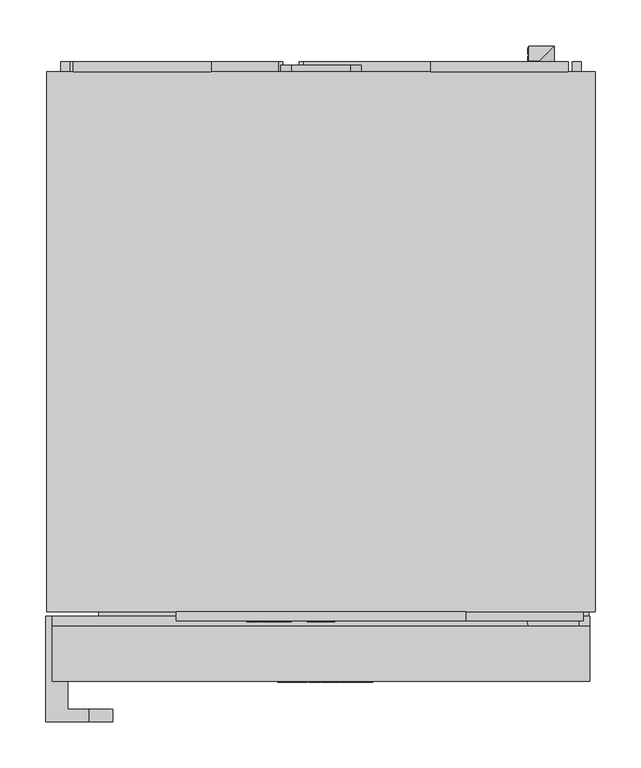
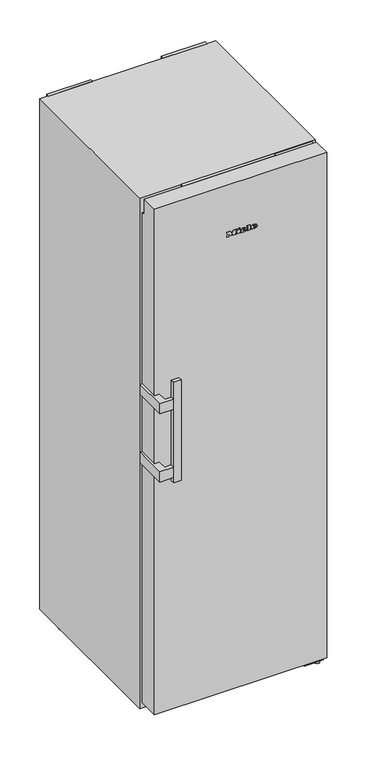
"""IFC4 building model written with IfcOpenShell, lengths in millimetres: proxy geometry, 11949500_CN_KS4783EDC_EDTCS : 36478350_CN_11949500_KS4783EDC_EDTCS."""

from ifc_helpers import new_model, si_unit, point, frame, frame_2d, origin, origin_with_axes, place, context, project, spatial, polyline, circle_curve, ellipse_curve, trimmed, segment, composite_curve, outline, extrude, faceted_brep, source, transform, mapped, element, save
from ifc_brep_helpers import plane_surface, cylinder_surface, revolved_surface, extruded_surface, advanced_brep


def specialty_equipment_c782e8de(model_context):
    return source(origin(), model_context, "Body", "SolidModel", [
        extrude(outline(polyline([(15.0, -609.5), (-15.0, -609.5), (-15.0, -608.5), (15.0, -608.5), (15.0, -609.5)])), frame((0.0, 0.0, 1810.5), z_axis=(0.0, 0.0, 1.0), x_axis=(1.0, 0.0, 0.0)), (0.0, 0.0, 1.0), 31.0),
        extrude(outline(polyline([(105.0, -608.5), (-105.0, -608.5), (-105.0, -606.5), (105.0, -606.5), (105.0, -608.5)])), frame((0.0, 0.0, 1806.5), z_axis=(0.0, 0.0, 1.0), x_axis=(1.0, 0.0, 0.0)), (0.0, 0.0, 1.0), 39.0),
        faceted_brep([(157.5, -598.5, 1802.0), (157.5, -608.5, 1802.0), (-157.5, -608.5, 1802.0), (-157.5, -598.5, 1802.0), (157.5, -598.5, 1850.0), (-157.5, -598.5, 1850.0), (-157.5, -608.5, 1850.0), (157.5, -608.5, 1850.0), (-105.0, -608.5, 1845.5), (105.0, -608.5, 1845.5), (105.0, -608.5, 1806.5), (-105.0, -608.5, 1806.5), (105.0, -606.5, 1845.5), (-105.0, -606.5, 1845.5), (-105.0, -606.5, 1806.5), (105.0, -606.5, 1806.5)], [[[0, 1, 2, 3]], [[4, 5, 6, 7]], [[0, 3, 5, 4]], [[3, 2, 6, 5]], [[2, 1, 7, 6], [8, 9, 10, 11]], [[1, 0, 4, 7]], [[12, 13, 14, 15]], [[13, 12, 9, 8]], [[14, 13, 8, 11]], [[15, 14, 11, 10]], [[12, 15, 10, 9]]]),
        advanced_brep(
        [(44.846, -675.5, 1672.029), (44.846, -675.5, 1673.746), (56.219, -675.5, 1673.746), (36.431, -675.5, 1673.746), (41.106, -675.5, 1668.0), (55.93, -675.5, 1672.029), (50.796, -675.5, 1672.029), (46.75, -675.5, 1670.125), (44.846, -675.5, 1675.922), (44.846, -675.5, 1677.775), (47.753, -675.5, 1677.775), (47.753, -675.5, 1675.922), (44.846, -674.5, 1672.029), (46.75, -674.5, 1670.125), (50.796, -674.5, 1672.029), (55.93, -674.5, 1672.029), (41.106, -674.5, 1668.0), (36.431, -674.5, 1673.746), (56.219, -674.5, 1673.746), (44.846, -674.5, 1673.746), (44.846, -674.5, 1675.922), (47.753, -674.5, 1675.922), (47.753, -674.5, 1677.775), (44.846, -674.5, 1677.775)],
        [
            (0, 1),
            (1, 2),
            (2, 3, ellipse_curve(frame((46.325, -675.5, 1673.746), z_axis=(0.0, -1.0, 0.0), x_axis=(-1.0, 0.0, 0.0)), 9.894, 8.177)),
            (3, 4, circle_curve(frame((43.0100927, -675.5, 1674.324), z_axis=(0.0, -1.0, 0.0), x_axis=(0.0, 0.0, -1.0)), 6.6044337)),
            (4, 5, circle_curve(frame((46.1269364, -675.5, 1678.812), z_axis=(0.0, -1.0, 0.0), x_axis=(0.0, 0.0, -1.0)), 11.9209541)),
            (5, 6),
            (6, 7, circle_curve(frame((47.581, -675.5, 1673.61), z_axis=(0.0, 1.0, 0.0), x_axis=(0.0, 0.0, -1.0)), 3.5827065)),
            (7, 0, circle_curve(frame((46.75, -675.5, 1672.029), z_axis=(0.0, 1.0, 0.0), x_axis=(0.0, 0.0, -1.0)), 1.904)),
            (8, 9),
            (9, 10, circle_curve(frame((46.2995, -675.5, 1677.775), z_axis=(0.0, 1.0, 0.0), x_axis=(0.0, 0.0, -1.0)), 1.4535)),
            (10, 11),
            (11, 8),
            (12, 13, circle_curve(frame((46.75, -674.5, 1672.029), z_axis=(0.0, -1.0, 0.0), x_axis=(0.0, 0.0, -1.0)), 1.904)),
            (13, 14, circle_curve(frame((47.581, -674.5, 1673.61), z_axis=(0.0, -1.0, 0.0), x_axis=(0.0, 0.0, -1.0)), 3.5827065)),
            (14, 15),
            (15, 16, circle_curve(frame((46.1269364, -674.5, 1678.812), z_axis=(0.0, 1.0, 0.0), x_axis=(0.0, 0.0, -1.0)), 11.9209541)),
            (16, 17, circle_curve(frame((43.0100927, -674.5, 1674.324), z_axis=(0.0, 1.0, 0.0), x_axis=(0.0, 0.0, -1.0)), 6.6044337)),
            (17, 18, ellipse_curve(frame((46.325, -674.5, 1673.746), z_axis=(0.0, 1.0, 0.0), x_axis=(-1.0, 0.0, 0.0)), 9.894, 8.177)),
            (18, 19),
            (19, 12),
            (20, 21),
            (21, 22),
            (22, 23, circle_curve(frame((46.2995, -674.5, 1677.775), z_axis=(0.0, -1.0, 0.0), x_axis=(0.0, 0.0, -1.0)), 1.4535)),
            (23, 20),
            (0, 12),
            (19, 1),
            (18, 2),
            (5, 15),
            (14, 6),
            (17, 3),
            (13, 7),
            (16, 4),
            (8, 20),
            (23, 9),
            (22, 10),
            (21, 11),
        ],
        [
            plane_surface(frame((44.846, -675.5, 1673.746), z_axis=(0.0, -1.0, 0.0), x_axis=(0.0, 0.0, 1.0))),
            plane_surface(frame((44.846, -674.5, 1673.746), z_axis=(0.0, 1.0, 0.0), x_axis=(0.0, 0.0, -1.0))),
            plane_surface(frame((44.846, -675.5, 1672.029), z_axis=(1.0, 0.0, 0.0), x_axis=(0.0, 1.0, 0.0))),
            plane_surface(frame((44.846, -675.5, 1673.746), z_axis=(0.0, 0.0, -1.0), x_axis=(0.0, 1.0, 0.0))),
            plane_surface(frame((55.93, -675.5, 1672.029), z_axis=(0.0, 0.0, 1.0), x_axis=(0.0, 1.0, 0.0))),
            extruded_surface(trimmed(ellipse_curve(frame((46.325, -673.5, 1673.746), z_axis=(0.0, -1.0, 0.0), x_axis=(-1.0, 0.0, 0.0)), 9.894, 8.177), [point((56.219, -673.5, 1673.746))], [point((36.431, -673.5, 1673.746))], True, "CARTESIAN"), (0.0, -1.0, 0.0), 1.0),
            revolved_surface(polyline([(47.581, -674.5, 1670.0272934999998), (47.581, -675.5, 1670.0272934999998)]), (47.581, -674.5, 1673.61), (0.0, 1.0, 0.0)),
            revolved_surface(polyline([(46.75, -674.5, 1670.125), (46.75, -675.5, 1670.125)]), (46.75, -674.5, 1672.029), (0.0, 1.0, 0.0)),
            cylinder_surface(frame((43.0100927, -674.5, 1674.324), z_axis=(0.0, -1.0, 0.0), x_axis=(0.0, 0.0, -1.0)), 6.6044337),
            cylinder_surface(frame((46.1269364, -674.5, 1678.812), z_axis=(0.0, -1.0, 0.0), x_axis=(0.0, 0.0, -1.0)), 11.9209541),
            plane_surface(frame((44.846, -675.5, 1675.922), z_axis=(1.0, 0.0, 0.0), x_axis=(0.0, 1.0, 0.0))),
            revolved_surface(polyline([(46.2995, -674.5, 1676.3215), (46.2995, -675.5, 1676.3215)]), (46.2995, -674.5, 1677.775), (0.0, 1.0, 0.0)),
            plane_surface(frame((47.753, -675.5, 1677.775), z_axis=(-1.0, 0.0, 0.0), x_axis=(0.0, 1.0, 0.0))),
            plane_surface(frame((47.753, -675.5, 1675.922), z_axis=(0.0, 0.0, 1.0), x_axis=(0.0, 1.0, 0.0))),
        ],
        [
            (0, [[1, 2, 3, 4, 5, 6, 7, 8], [9, 10, 11, 12]]),
            (1, [[13, 14, 15, 16, 17, 18, 19, 20], [21, 22, 23, 24]]),
            (2, [[-1, 25, -20, 26]]),
            (3, [[-2, -26, -19, 27]]),
            (4, [[-6, 28, -15, 29]]),
            (5, [[-3, -27, -18, 30]]),
            (6, [[-7, -29, -14, 31]]),
            (7, [[-8, -31, -13, -25]]),
            (8, [[-4, -30, -17, 32]]),
            (9, [[-5, -32, -16, -28]]),
            (10, [[-9, 33, -24, 34]]),
            (11, [[-10, -34, -23, 35]]),
            (12, [[-11, -35, -22, 36]]),
            (13, [[-12, -36, -21, -33]]),
        ],
    ),
        advanced_brep(
        [(9.367, -675.5, 1672.029), (9.367, -675.5, 1673.746), (20.74, -675.5, 1673.746), (0.952, -675.5, 1673.746), (5.627, -675.5, 1668.0), (20.451, -675.5, 1672.029), (15.317, -675.5, 1672.029), (11.271, -675.5, 1670.125), (9.367, -675.5, 1675.922), (9.367, -675.5, 1677.775), (12.274, -675.5, 1677.775), (12.274, -675.5, 1675.922), (9.367, -674.5, 1672.029), (11.271, -674.5, 1670.125), (15.317, -674.5, 1672.029), (20.451, -674.5, 1672.029), (5.627, -674.5, 1668.0), (0.952, -674.5, 1673.746), (20.74, -674.5, 1673.746), (9.367, -674.5, 1673.746), (9.367, -674.5, 1675.922), (12.274, -674.5, 1675.922), (12.274, -674.5, 1677.775), (9.367, -674.5, 1677.775)],
        [
            (0, 1),
            (1, 2),
            (2, 3, ellipse_curve(frame((10.846, -675.5, 1673.746), z_axis=(0.0, -1.0, 0.0), x_axis=(-1.0, 0.0, 0.0)), 9.894, 8.177)),
            (3, 4, circle_curve(frame((7.5310927, -675.5, 1674.324), z_axis=(0.0, -1.0, 0.0), x_axis=(0.0, 0.0, -1.0)), 6.6044337)),
            (4, 5, circle_curve(frame((10.6479364, -675.5, 1678.812), z_axis=(0.0, -1.0, 0.0), x_axis=(0.0, 0.0, -1.0)), 11.9209541)),
            (5, 6),
            (6, 7, circle_curve(frame((12.102, -675.5, 1673.61), z_axis=(0.0, 1.0, 0.0), x_axis=(0.0, 0.0, -1.0)), 3.5827065)),
            (7, 0, circle_curve(frame((11.271, -675.5, 1672.029), z_axis=(0.0, 1.0, 0.0), x_axis=(0.0, 0.0, -1.0)), 1.904)),
            (8, 9),
            (9, 10, circle_curve(frame((10.8205, -675.5, 1677.775), z_axis=(0.0, 1.0, 0.0), x_axis=(0.0, 0.0, -1.0)), 1.4535)),
            (10, 11),
            (11, 8),
            (12, 13, circle_curve(frame((11.271, -674.5, 1672.029), z_axis=(0.0, -1.0, 0.0), x_axis=(0.0, 0.0, -1.0)), 1.904)),
            (13, 14, circle_curve(frame((12.102, -674.5, 1673.61), z_axis=(0.0, -1.0, 0.0), x_axis=(0.0, 0.0, -1.0)), 3.5827065)),
            (14, 15),
            (15, 16, circle_curve(frame((10.6479364, -674.5, 1678.812), z_axis=(0.0, 1.0, 0.0), x_axis=(0.0, 0.0, -1.0)), 11.9209541)),
            (16, 17, circle_curve(frame((7.5310927, -674.5, 1674.324), z_axis=(0.0, 1.0, 0.0), x_axis=(0.0, 0.0, -1.0)), 6.6044337)),
            (17, 18, ellipse_curve(frame((10.846, -674.5, 1673.746), z_axis=(0.0, 1.0, 0.0), x_axis=(-1.0, 0.0, 0.0)), 9.894, 8.177)),
            (18, 19),
            (19, 12),
            (20, 21),
            (21, 22),
            (22, 23, circle_curve(frame((10.8205, -674.5, 1677.775), z_axis=(0.0, -1.0, 0.0), x_axis=(0.0, 0.0, -1.0)), 1.4535)),
            (23, 20),
            (0, 12),
            (19, 1),
            (18, 2),
            (5, 15),
            (14, 6),
            (17, 3),
            (13, 7),
            (16, 4),
            (8, 20),
            (23, 9),
            (22, 10),
            (21, 11),
        ],
        [
            plane_surface(frame((9.367, -675.5, 1673.746), z_axis=(0.0, -1.0, 0.0), x_axis=(0.0, 0.0, 1.0))),
            plane_surface(frame((9.367, -674.5, 1673.746), z_axis=(0.0, 1.0, 0.0), x_axis=(0.0, 0.0, -1.0))),
            plane_surface(frame((9.367, -675.5, 1672.029), z_axis=(1.0, 0.0, 0.0), x_axis=(0.0, 1.0, 0.0))),
            plane_surface(frame((9.367, -675.5, 1673.746), z_axis=(0.0, 0.0, -1.0), x_axis=(0.0, 1.0, 0.0))),
            plane_surface(frame((20.451, -675.5, 1672.029), z_axis=(0.0, 0.0, 1.0), x_axis=(0.0, 1.0, 0.0))),
            extruded_surface(trimmed(ellipse_curve(frame((10.846, -673.5, 1673.746), z_axis=(0.0, -1.0, 0.0), x_axis=(-1.0, 0.0, 0.0)), 9.894, 8.177), [point((20.74, -673.5, 1673.746))], [point((0.952, -673.5, 1673.746))], True, "CARTESIAN"), (0.0, -1.0, 0.0), 1.0),
            revolved_surface(polyline([(12.102, -674.5, 1670.0272934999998), (12.102, -675.5, 1670.0272934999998)]), (12.102, -674.5, 1673.61), (0.0, 1.0, 0.0)),
            revolved_surface(polyline([(11.271, -674.5, 1670.125), (11.271, -675.5, 1670.125)]), (11.271, -674.5, 1672.029), (0.0, 1.0, 0.0)),
            cylinder_surface(frame((7.5310927, -674.5, 1674.324), z_axis=(0.0, -1.0, 0.0), x_axis=(0.0, 0.0, -1.0)), 6.6044337),
            cylinder_surface(frame((10.6479364, -674.5, 1678.812), z_axis=(0.0, -1.0, 0.0), x_axis=(0.0, 0.0, -1.0)), 11.9209541),
            plane_surface(frame((9.367, -675.5, 1675.922), z_axis=(1.0, 0.0, 0.0), x_axis=(0.0, 1.0, 0.0))),
            revolved_surface(polyline([(10.8205, -674.5, 1676.3215), (10.8205, -675.5, 1676.3215)]), (10.8205, -674.5, 1677.775), (0.0, 1.0, 0.0)),
            plane_surface(frame((12.274, -675.5, 1677.775), z_axis=(-1.0, 0.0, 0.0), x_axis=(0.0, 1.0, 0.0))),
            plane_surface(frame((12.274, -675.5, 1675.922), z_axis=(0.0, 0.0, 1.0), x_axis=(0.0, 1.0, 0.0))),
        ],
        [
            (0, [[1, 2, 3, 4, 5, 6, 7, 8], [9, 10, 11, 12]]),
            (1, [[13, 14, 15, 16, 17, 18, 19, 20], [21, 22, 23, 24]]),
            (2, [[-1, 25, -20, 26]]),
            (3, [[-2, -26, -19, 27]]),
            (4, [[-6, 28, -15, 29]]),
            (5, [[-3, -27, -18, 30]]),
            (6, [[-7, -29, -14, 31]]),
            (7, [[-8, -31, -13, -25]]),
            (8, [[-4, -30, -17, 32]]),
            (9, [[-5, -32, -16, -28]]),
            (10, [[-9, 33, -24, 34]]),
            (11, [[-10, -34, -23, 35]]),
            (12, [[-11, -35, -22, 36]]),
            (13, [[-12, -36, -21, -33]]),
        ],
    ),
        extrude(outline(polyline([(1683.997, -9.214), (1681.243, -7.922), (1683.929, -2.159), (1686.683, -3.434), (1683.997, -9.214)])), frame((0.0, -675.5, 0.0), z_axis=(0.0, 1.0, 0.0), x_axis=(0.0, 0.0, 1.0)), (0.0, 0.0, 1.0), 1.0),
        extrude(outline(polyline([(1680.869, -13.413), (1677.826, -13.413), (1677.826, -11.39), (1670.856, -11.39), (1670.856, -13.413), (1668.0, -13.413), (1668.0, 0.0), (1670.856, 0.0), (1670.856, -1.972), (1680.869, -1.972), (1680.869, -13.413)])), frame((0.0, -675.5, 0.0), z_axis=(0.0, 1.0, 0.0), x_axis=(0.0, 0.0, 1.0)), (0.0, 0.0, 1.0), 1.0),
        extrude(outline(polyline([(1682.229, 21.692), (1682.229, 23.732), (1670.856, 23.732), (1670.856, 21.692), (1668.0, 21.692), (1668.0, 35.479), (1670.856, 35.479), (1670.856, 33.388), (1685.0, 33.388), (1685.0, 21.692), (1682.229, 21.692)])), frame((0.0, -675.5, 0.0), z_axis=(0.0, 1.0, 0.0), x_axis=(0.0, 0.0, 1.0)), (0.0, 0.0, 1.0), 1.0),
        extrude(outline(polyline([(1682.229, -47.294), (1682.229, -45.237), (1670.856, -45.237), (1670.856, -47.294), (1668.0, -47.294), (1668.0, -39.814), (1670.856, -39.814), (1670.856, -41.854), (1678.0301247, -41.854), (1668.0, -34.255), (1678.4402223, -26.622), (1670.856, -26.622), (1670.856, -28.713), (1668.0, -28.713), (1668.0, -15.147), (1670.856, -15.147), (1670.856, -17.306), (1682.229, -17.306), (1682.229, -15.147), (1685.0, -15.147), (1685.0, -25.5), (1678.625, -30.464), (1685.0, -35.445), (1685.0, -47.294), (1682.229, -47.294)])), frame((0.0, -675.5, 0.0), z_axis=(0.0, 1.0, 0.0), x_axis=(0.0, 0.0, 1.0)), (0.0, 0.0, 1.0), 1.0),
        advanced_brep(
        [(-37.64, -609.5, 1828.896), (-37.64, -609.5, 1829.704), (-32.288, -609.5, 1829.704), (-41.6, -609.5, 1829.704), (-39.4, -609.5, 1827.0), (-32.424, -609.5, 1828.896), (-34.84, -609.5, 1828.896), (-36.744, -609.5, 1828.0), (-37.64, -609.5, 1830.728), (-37.64, -609.5, 1831.6), (-36.272, -609.5, 1831.6), (-36.272, -609.5, 1830.728), (-37.64, -608.5, 1828.896), (-36.744, -608.5, 1828.0), (-34.84, -608.5, 1828.896), (-32.424, -608.5, 1828.896), (-39.4, -608.5, 1827.0), (-41.6, -608.5, 1829.704), (-32.288, -608.5, 1829.704), (-37.64, -608.5, 1829.704), (-37.64, -608.5, 1830.728), (-36.272, -608.5, 1830.728), (-36.272, -608.5, 1831.6), (-37.64, -608.5, 1831.6)],
        [
            (0, 1),
            (1, 2),
            (2, 3, ellipse_curve(frame((-36.944, -609.5, 1829.704), z_axis=(0.0, -1.0, 0.0), x_axis=(-1.0, 0.0, 0.0)), 4.656, 3.848)),
            (3, 4, circle_curve(frame((-38.5039564, -609.5, 1829.976), z_axis=(0.0, -1.0, 0.0), x_axis=(0.0, 0.0, -1.0)), 3.1079688)),
            (4, 5, circle_curve(frame((-37.0372064, -609.5, 1832.088), z_axis=(0.0, -1.0, 0.0), x_axis=(0.0, 0.0, -1.0)), 5.6098607)),
            (5, 6),
            (6, 7, circle_curve(frame((-36.3529412, -609.5, 1829.64), z_axis=(0.0, 1.0, 0.0), x_axis=(0.0, 0.0, -1.0)), 1.6859795)),
            (7, 0, circle_curve(frame((-36.744, -609.5, 1828.896), z_axis=(0.0, 1.0, 0.0), x_axis=(0.0, 0.0, -1.0)), 0.896)),
            (8, 9),
            (9, 10, circle_curve(frame((-36.956, -609.5, 1831.6), z_axis=(0.0, 1.0, 0.0), x_axis=(0.0, 0.0, -1.0)), 0.684)),
            (10, 11),
            (11, 8),
            (12, 13, circle_curve(frame((-36.744, -608.5, 1828.896), z_axis=(0.0, -1.0, 0.0), x_axis=(0.0, 0.0, -1.0)), 0.896)),
            (13, 14, circle_curve(frame((-36.3529412, -608.5, 1829.64), z_axis=(0.0, -1.0, 0.0), x_axis=(0.0, 0.0, -1.0)), 1.6859795)),
            (14, 15),
            (15, 16, circle_curve(frame((-37.0372064, -608.5, 1832.088), z_axis=(0.0, 1.0, 0.0), x_axis=(0.0, 0.0, -1.0)), 5.6098607)),
            (16, 17, circle_curve(frame((-38.5039564, -608.5, 1829.976), z_axis=(0.0, 1.0, 0.0), x_axis=(0.0, 0.0, -1.0)), 3.1079688)),
            (17, 18, ellipse_curve(frame((-36.944, -608.5, 1829.704), z_axis=(0.0, 1.0, 0.0), x_axis=(-1.0, 0.0, 0.0)), 4.656, 3.848)),
            (18, 19),
            (19, 12),
            (20, 21),
            (21, 22),
            (22, 23, circle_curve(frame((-36.956, -608.5, 1831.6), z_axis=(0.0, -1.0, 0.0), x_axis=(0.0, 0.0, -1.0)), 0.684)),
            (23, 20),
            (0, 12),
            (19, 1),
            (18, 2),
            (5, 15),
            (14, 6),
            (17, 3),
            (13, 7),
            (16, 4),
            (8, 20),
            (23, 9),
            (22, 10),
            (21, 11),
        ],
        [
            plane_surface(frame((-37.64, -609.5, 1829.704), z_axis=(0.0, -1.0, 0.0), x_axis=(0.0, 0.0, 1.0))),
            plane_surface(frame((-37.64, -608.5, 1829.704), z_axis=(0.0, 1.0, 0.0), x_axis=(0.0, 0.0, -1.0))),
            plane_surface(frame((-37.64, -609.5, 1828.896), z_axis=(1.0, 0.0, 0.0), x_axis=(0.0, 1.0, 0.0))),
            plane_surface(frame((-37.64, -609.5, 1829.704), z_axis=(0.0, 0.0, -1.0), x_axis=(0.0, 1.0, 0.0))),
            plane_surface(frame((-32.424, -609.5, 1828.896), z_axis=(0.0, 0.0, 1.0), x_axis=(0.0, 1.0, 0.0))),
            extruded_surface(trimmed(ellipse_curve(frame((-36.944, -607.5, 1829.704), z_axis=(0.0, -1.0, 0.0), x_axis=(-1.0, 0.0, 0.0)), 4.656, 3.848), [point((-32.288, -607.5, 1829.704))], [point((-41.6, -607.5, 1829.704))], True, "CARTESIAN"), (0.0, -1.0, 0.0), 1.0),
            revolved_surface(polyline([(-36.3529412, -608.5, 1827.9540205), (-36.3529412, -609.5, 1827.9540205)]), (-36.3529412, -608.5, 1829.64), (0.0, 1.0, 0.0)),
            revolved_surface(polyline([(-36.744, -608.5, 1828.0), (-36.744, -609.5, 1828.0)]), (-36.744, -608.5, 1828.896), (0.0, 1.0, 0.0)),
            cylinder_surface(frame((-38.5039564, -608.5, 1829.976), z_axis=(0.0, -1.0, 0.0), x_axis=(0.0, 0.0, -1.0)), 3.1079688),
            cylinder_surface(frame((-37.0372064, -608.5, 1832.088), z_axis=(0.0, -1.0, 0.0), x_axis=(0.0, 0.0, -1.0)), 5.6098607),
            plane_surface(frame((-37.64, -609.5, 1830.728), z_axis=(1.0, 0.0, 0.0), x_axis=(0.0, 1.0, 0.0))),
            revolved_surface(polyline([(-36.956, -608.5, 1830.916), (-36.956, -609.5, 1830.916)]), (-36.956, -608.5, 1831.6), (0.0, 1.0, 0.0)),
            plane_surface(frame((-36.272, -609.5, 1831.6), z_axis=(-1.0, 0.0, 0.0), x_axis=(0.0, 1.0, 0.0))),
            plane_surface(frame((-36.272, -609.5, 1830.728), z_axis=(0.0, 0.0, 1.0), x_axis=(0.0, 1.0, 0.0))),
        ],
        [
            (0, [[1, 2, 3, 4, 5, 6, 7, 8], [9, 10, 11, 12]]),
            (1, [[13, 14, 15, 16, 17, 18, 19, 20], [21, 22, 23, 24]]),
            (2, [[-1, 25, -20, 26]]),
            (3, [[-2, -26, -19, 27]]),
            (4, [[-6, 28, -15, 29]]),
            (5, [[-3, -27, -18, 30]]),
            (6, [[-7, -29, -14, 31]]),
            (7, [[-8, -31, -13, -25]]),
            (8, [[-4, -30, -17, 32]]),
            (9, [[-5, -32, -16, -28]]),
            (10, [[-9, 33, -24, 34]]),
            (11, [[-10, -34, -23, 35]]),
            (12, [[-11, -35, -22, 36]]),
            (13, [[-12, -36, -21, -33]]),
        ],
    ),
        advanced_brep(
        [(-54.336, -609.5, 1828.896), (-54.336, -609.5, 1829.704), (-48.984, -609.5, 1829.704), (-58.296, -609.5, 1829.704), (-56.096, -609.5, 1827.0), (-49.12, -609.5, 1828.896), (-51.536, -609.5, 1828.896), (-53.44, -609.5, 1828.0), (-54.336, -609.5, 1830.728), (-54.336, -609.5, 1831.6), (-52.968, -609.5, 1831.6), (-52.968, -609.5, 1830.728), (-54.336, -608.5, 1828.896), (-53.44, -608.5, 1828.0), (-51.536, -608.5, 1828.896), (-49.12, -608.5, 1828.896), (-56.096, -608.5, 1827.0), (-58.296, -608.5, 1829.704), (-48.984, -608.5, 1829.704), (-54.336, -608.5, 1829.704), (-54.336, -608.5, 1830.728), (-52.968, -608.5, 1830.728), (-52.968, -608.5, 1831.6), (-54.336, -608.5, 1831.6)],
        [
            (0, 1),
            (1, 2),
            (2, 3, ellipse_curve(frame((-53.64, -609.5, 1829.704), z_axis=(0.0, -1.0, 0.0), x_axis=(-1.0, 0.0, 0.0)), 4.656, 3.848)),
            (3, 4, circle_curve(frame((-55.1999564, -609.5, 1829.976), z_axis=(0.0, -1.0, 0.0), x_axis=(0.0, 0.0, -1.0)), 3.1079688)),
            (4, 5, circle_curve(frame((-53.7332064, -609.5, 1832.088), z_axis=(0.0, -1.0, 0.0), x_axis=(0.0, 0.0, -1.0)), 5.6098607)),
            (5, 6),
            (6, 7, circle_curve(frame((-53.0489412, -609.5, 1829.64), z_axis=(0.0, 1.0, 0.0), x_axis=(0.0, 0.0, -1.0)), 1.6859795)),
            (7, 0, circle_curve(frame((-53.44, -609.5, 1828.896), z_axis=(0.0, 1.0, 0.0), x_axis=(0.0, 0.0, -1.0)), 0.896)),
            (8, 9),
            (9, 10, circle_curve(frame((-53.652, -609.5, 1831.6), z_axis=(0.0, 1.0, 0.0), x_axis=(0.0, 0.0, -1.0)), 0.684)),
            (10, 11),
            (11, 8),
            (12, 13, circle_curve(frame((-53.44, -608.5, 1828.896), z_axis=(0.0, -1.0, 0.0), x_axis=(0.0, 0.0, -1.0)), 0.896)),
            (13, 14, circle_curve(frame((-53.0489412, -608.5, 1829.64), z_axis=(0.0, -1.0, 0.0), x_axis=(0.0, 0.0, -1.0)), 1.6859795)),
            (14, 15),
            (15, 16, circle_curve(frame((-53.7332064, -608.5, 1832.088), z_axis=(0.0, 1.0, 0.0), x_axis=(0.0, 0.0, -1.0)), 5.6098607)),
            (16, 17, circle_curve(frame((-55.1999564, -608.5, 1829.976), z_axis=(0.0, 1.0, 0.0), x_axis=(0.0, 0.0, -1.0)), 3.1079688)),
            (17, 18, ellipse_curve(frame((-53.64, -608.5, 1829.704), z_axis=(0.0, 1.0, 0.0), x_axis=(-1.0, 0.0, 0.0)), 4.656, 3.848)),
            (18, 19),
            (19, 12),
            (20, 21),
            (21, 22),
            (22, 23, circle_curve(frame((-53.652, -608.5, 1831.6), z_axis=(0.0, -1.0, 0.0), x_axis=(0.0, 0.0, -1.0)), 0.684)),
            (23, 20),
            (0, 12),
            (19, 1),
            (18, 2),
            (5, 15),
            (14, 6),
            (17, 3),
            (13, 7),
            (16, 4),
            (8, 20),
            (23, 9),
            (22, 10),
            (21, 11),
        ],
        [
            plane_surface(frame((-54.336, -609.5, 1829.704), z_axis=(0.0, -1.0, 0.0), x_axis=(0.0, 0.0, 1.0))),
            plane_surface(frame((-54.336, -608.5, 1829.704), z_axis=(0.0, 1.0, 0.0), x_axis=(0.0, 0.0, -1.0))),
            plane_surface(frame((-54.336, -609.5, 1828.896), z_axis=(1.0, 0.0, 0.0), x_axis=(0.0, 1.0, 0.0))),
            plane_surface(frame((-54.336, -609.5, 1829.704), z_axis=(0.0, 0.0, -1.0), x_axis=(0.0, 1.0, 0.0))),
            plane_surface(frame((-49.12, -609.5, 1828.896), z_axis=(0.0, 0.0, 1.0), x_axis=(0.0, 1.0, 0.0))),
            extruded_surface(trimmed(ellipse_curve(frame((-53.64, -607.5, 1829.704), z_axis=(0.0, -1.0, 0.0), x_axis=(-1.0, 0.0, 0.0)), 4.656, 3.848), [point((-48.984, -607.5, 1829.704))], [point((-58.296, -607.5, 1829.704))], True, "CARTESIAN"), (0.0, -1.0, 0.0), 1.0),
            revolved_surface(polyline([(-53.0489412, -608.5, 1827.9540205), (-53.0489412, -609.5, 1827.9540205)]), (-53.0489412, -608.5, 1829.64), (0.0, 1.0, 0.0)),
            revolved_surface(polyline([(-53.44, -608.5, 1828.0), (-53.44, -609.5, 1828.0)]), (-53.44, -608.5, 1828.896), (0.0, 1.0, 0.0)),
            cylinder_surface(frame((-55.1999564, -608.5, 1829.976), z_axis=(0.0, -1.0, 0.0), x_axis=(0.0, 0.0, -1.0)), 3.1079688),
            cylinder_surface(frame((-53.7332064, -608.5, 1832.088), z_axis=(0.0, -1.0, 0.0), x_axis=(0.0, 0.0, -1.0)), 5.6098607),
            plane_surface(frame((-54.336, -609.5, 1830.728), z_axis=(1.0, 0.0, 0.0), x_axis=(0.0, 1.0, 0.0))),
            revolved_surface(polyline([(-53.652, -608.5, 1830.916), (-53.652, -609.5, 1830.916)]), (-53.652, -608.5, 1831.6), (0.0, 1.0, 0.0)),
            plane_surface(frame((-52.968, -609.5, 1831.6), z_axis=(-1.0, 0.0, 0.0), x_axis=(0.0, 1.0, 0.0))),
            plane_surface(frame((-52.968, -609.5, 1830.728), z_axis=(0.0, 0.0, 1.0), x_axis=(0.0, 1.0, 0.0))),
        ],
        [
            (0, [[1, 2, 3, 4, 5, 6, 7, 8], [9, 10, 11, 12]]),
            (1, [[13, 14, 15, 16, 17, 18, 19, 20], [21, 22, 23, 24]]),
            (2, [[-1, 25, -20, 26]]),
            (3, [[-2, -26, -19, 27]]),
            (4, [[-6, 28, -15, 29]]),
            (5, [[-3, -27, -18, 30]]),
            (6, [[-7, -29, -14, 31]]),
            (7, [[-8, -31, -13, -25]]),
            (8, [[-4, -30, -17, 32]]),
            (9, [[-5, -32, -16, -28]]),
            (10, [[-9, 33, -24, 34]]),
            (11, [[-10, -34, -23, 35]]),
            (12, [[-11, -35, -22, 36]]),
            (13, [[-12, -36, -21, -33]]),
        ],
    ),
        extrude(outline(polyline([(1834.528, -63.08), (1833.232, -62.472), (1834.496, -59.76), (1835.792, -60.36), (1834.528, -63.08)])), frame((0.0, -609.5, 0.0), z_axis=(0.0, 1.0, 0.0), x_axis=(0.0, 0.0, 1.0)), (0.0, 0.0, 1.0), 1.0),
        extrude(outline(polyline([(1833.056, -65.056), (1831.624, -65.056), (1831.624, -64.104), (1828.344, -64.104), (1828.344, -65.056), (1827.0, -65.056), (1827.0, -58.744), (1828.344, -58.744), (1828.344, -59.672), (1833.056, -59.672), (1833.056, -65.056)])), frame((0.0, -609.5, 0.0), z_axis=(0.0, 1.0, 0.0), x_axis=(0.0, 0.0, 1.0)), (0.0, 0.0, 1.0), 1.0),
        extrude(outline(polyline([(1833.696, -48.536), (1833.696, -47.576), (1828.344, -47.576), (1828.344, -48.536), (1827.0, -48.536), (1827.0, -42.048), (1828.344, -42.048), (1828.344, -43.032), (1835.0, -43.032), (1835.0, -48.536), (1833.696, -48.536)])), frame((0.0, -609.5, 0.0), z_axis=(0.0, 1.0, 0.0), x_axis=(0.0, 0.0, 1.0)), (0.0, 0.0, 1.0), 1.0),
        extrude(outline(polyline([(1833.696, -81.0), (1833.696, -80.032), (1828.344, -80.032), (1828.344, -81.0), (1827.0, -81.0), (1827.0, -77.48), (1828.344, -77.48), (1828.344, -78.44), (1831.7471247, -78.44), (1827.0, -74.864), (1831.8152223, -71.272), (1828.344, -71.272), (1828.344, -72.256), (1827.0, -72.256), (1827.0, -65.872), (1828.344, -65.872), (1828.344, -66.888), (1833.696, -66.888), (1833.696, -65.872), (1835.0, -65.872), (1835.0, -70.744), (1832.0, -73.08), (1835.0, -75.424), (1835.0, -81.0), (1833.696, -81.0)])), frame((0.0, -609.5, 0.0), z_axis=(0.0, 1.0, 0.0), x_axis=(0.0, 0.0, 1.0)), (0.0, 0.0, 1.0), 1.0),
        extrude(outline(polyline([(-63.7102801, 4.8264332), (-39.4378823, 4.8264332), (-46.2922883, 0.1735668), (-55.0031641, 0.1735668), (-63.7102801, 4.8264332)])), frame((-263.6000061, 0.0, 0.0), z_axis=(1.0, 0.0, 0.0), x_axis=(0.0, 1.0, 0.0)), (0.0, 0.0, 1.0), 15.1000061),
        extrude(outline(polyline([(-63.7102801, 4.8264332), (-39.4378823, 4.8264332), (-46.2922883, 0.1735668), (-55.0031641, 0.1735668), (-63.7102801, 4.8264332)])), frame((248.5, 0.0, 0.0), z_axis=(1.0, 0.0, 0.0), x_axis=(0.0, 1.0, 0.0)), (0.0, 0.0, 1.0), 15.1000061),
        extrude(outline(polyline([(15.8847229, 142.0), (8.5074627, 142.0), (8.5074627, 143.2557039), (14.6290191, 143.2557039), (14.6290191, 146.5519266), (8.9783516, 146.5519266), (8.9783516, 147.8076304), (14.6290191, 147.8076304), (14.6290191, 150.7899271), (8.6644256, 150.7899271), (8.6644256, 152.045631), (15.8847229, 152.045631), (15.8847229, 142.0)])), frame((225.2100653, 0.0, 0.0), z_axis=(1.0, 0.0, 0.0), x_axis=(0.0, 1.0, 0.0)), (0.0, 0.0, 1.0), 1.0),
        extrude(outline(polyline([(6.6239068, 142.0), (0.3453875, 142.0), (0.3453875, 143.2557039), (5.368203, 143.2557039), (5.368203, 152.045631), (6.6239068, 152.045631), (6.6239068, 142.0)])), frame((225.2100653, 0.0, 0.0), z_axis=(1.0, 0.0, 0.0), x_axis=(0.0, 1.0, 0.0)), (0.0, 0.0, 1.0), 1.0),
        advanced_brep(
        [(254.2100653, -10.5, 147.0), (238.2100653, -10.5, 147.0), (254.2100653, 17.5, 147.0), (238.2100653, 1.5, 147.0), (226.2100653, 17.5, 147.0), (226.2100653, 1.5, 147.0)],
        [
            (0, 1, circle_curve(frame((246.2100653, -10.5, 147.0), z_axis=(0.0, -1.0, 0.0), x_axis=(-1.0, 0.0, 0.0)), 8.0)),
            (1, 0, circle_curve(frame((246.2100653, -10.5, 147.0), z_axis=(0.0, -1.0, 0.0), x_axis=(-1.0, 0.0, 0.0)), 8.0)),
            (0, 2),
            (2, 3, ellipse_curve(frame((246.2100653, 9.5, 147.0), z_axis=(0.7071067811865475, -0.7071067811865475, 0.0), x_axis=(-0.7071067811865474, -0.7071067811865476, 0.0)), 11.3137085, 8.0)),
            (3, 1),
            (3, 2, ellipse_curve(frame((246.2100653, 9.5, 147.0), z_axis=(0.7071067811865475, -0.7071067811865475, 0.0), x_axis=(-0.7071067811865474, -0.7071067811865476, 0.0)), 11.3137085, 8.0)),
            (4, 5, circle_curve(frame((226.2100653, 9.5, 147.0), z_axis=(-1.0, 0.0, 0.0), x_axis=(0.0, -1.0, 0.0)), 8.0)),
            (5, 4, circle_curve(frame((226.2100653, 9.5, 147.0), z_axis=(-1.0, 0.0, 0.0), x_axis=(0.0, -1.0, 0.0)), 8.0)),
            (2, 4),
            (5, 3),
        ],
        [
            plane_surface(frame((246.2100653, -10.5, 0.0), z_axis=(0.0, -1.0, 0.0), x_axis=(0.0, 0.0, 1.0))),
            cylinder_surface(frame((246.2100653, -10.5, 147.0), z_axis=(0.0, -1.0, 0.0), x_axis=(-1.0, 0.0, 0.0)), 8.0),
            plane_surface(frame((226.2100653, 9.5, 0.0), z_axis=(-1.0, 0.0, 0.0), x_axis=(0.0, 0.0, 1.0))),
            cylinder_surface(frame((246.2100653, 9.5, 147.0), z_axis=(1.0, 0.0, 0.0), x_axis=(0.0, -1.0, 0.0)), 8.0),
        ],
        [
            (0, [[1, 2]]),
            (1, [[-1, 3, 4, 5]]),
            (1, [[-2, -5, 6, -3]]),
            (2, [[7, 8]]),
            (3, [[-4, 9, -8, 10]]),
            (3, [[-6, -10, -7, -9]]),
        ],
    ),
        extrude(outline(polyline([(-92.0864945, 0.0), (-110.9135055, 0.0), (-123.5, 15.0), (-79.5, 15.0), (-92.0864945, 0.0)])), frame((272.5, 0.0, 0.0), z_axis=(1.0, 0.0, 0.0), x_axis=(0.0, 1.0, 0.0)), (0.0, 0.0, 1.0), 16.0),
        extrude(outline(polyline([(-92.0864945, 0.0), (-110.9135055, 0.0), (-123.5, 15.0), (-79.5, 15.0), (-92.0864945, 0.0)])), frame((-288.5, 0.0, 0.0), z_axis=(1.0, 0.0, 0.0), x_axis=(0.0, 1.0, 0.0)), (0.0, 0.0, 1.0), 16.0),
        extrude(outline(polyline([(283.5, -10.5), (273.5, -10.5), (273.5, 0.5), (283.5, 0.5), (283.5, -10.5)])), frame((0.0, 0.0, 238.0), z_axis=(0.0, 0.0, 1.0), x_axis=(1.0, 0.0, 0.0)), (0.0, 0.0, 1.0), 20.0),
        extrude(outline(polyline([(-273.5, -10.5), (-283.5, -10.5), (-283.5, 0.5), (-273.5, 0.5), (-273.5, -10.5)])), frame((0.0, 0.0, 238.0), z_axis=(0.0, 0.0, 1.0), x_axis=(1.0, 0.0, 0.0)), (0.0, 0.0, 1.0), 20.0),
        extrude(outline(composite_curve([segment(polyline([(70.0, -18.5), (70.0, 148.0)]), True, "CONTINUOUS"), segment(trimmed(circle_curve(frame_2d((75.0, 148.0)), 5.0), [point((70.0, 148.0))], [point((75.0, 153.0))], False, "CARTESIAN"), True, "CONTINUOUS"), segment(polyline([(75.0, 153.0), (162.0, 153.0)]), True, "CONTINUOUS"), segment(trimmed(circle_curve(frame_2d((162.0, 148.0)), 5.0), [point((162.0, 153.0))], [point((167.0, 148.0))], False, "CARTESIAN"), True, "CONTINUOUS"), segment(polyline([(167.0, 148.0), (167.0, -18.5)]), True, "CONTINUOUS"), segment(trimmed(circle_curve(frame_2d((162.0, -18.5)), 5.0), [point((167.0, -18.5))], [point((162.0, -23.5))], False, "CARTESIAN"), True, "CONTINUOUS"), segment(polyline([(162.0, -23.5), (75.0, -23.5)]), True, "CONTINUOUS"), segment(trimmed(circle_curve(frame_2d((75.0, -18.5)), 5.0), [point((75.0, -23.5))], [point((70.0, -18.5))], False, "CARTESIAN"), True, "CONTINUOUS")], self_intersect=False)), frame((0.0, -10.5, 0.0), z_axis=(0.0, 1.0, 0.0), x_axis=(0.0, 0.0, 1.0)), (0.0, 0.0, 1.0), 11.0),
        extrude(outline(composite_curve([segment(polyline([(70.0, -269.5), (70.0, -46.5)]), True, "CONTINUOUS"), segment(trimmed(circle_curve(frame_2d((75.0, -46.5)), 5.0), [point((70.0, -46.5))], [point((75.0, -41.5))], False, "CARTESIAN"), True, "CONTINUOUS"), segment(polyline([(75.0, -41.5), (162.0, -41.5)]), True, "CONTINUOUS"), segment(trimmed(circle_curve(frame_2d((162.0, -46.5)), 5.0), [point((162.0, -41.5))], [point((167.0, -46.5))], False, "CARTESIAN"), True, "CONTINUOUS"), segment(polyline([(167.0, -46.5), (167.0, -269.5)]), True, "CONTINUOUS"), segment(trimmed(circle_curve(frame_2d((162.0, -269.5)), 5.0), [point((167.0, -269.5))], [point((162.0, -274.5))], False, "CARTESIAN"), True, "CONTINUOUS"), segment(polyline([(162.0, -274.5), (75.0, -274.5)]), True, "CONTINUOUS"), segment(trimmed(circle_curve(frame_2d((75.0, -269.5)), 5.0), [point((75.0, -274.5))], [point((70.0, -269.5))], False, "CARTESIAN"), True, "CONTINUOUS")], self_intersect=False)), frame((0.0, -10.5, 0.0), z_axis=(0.0, 1.0, 0.0), x_axis=(0.0, 0.0, 1.0)), (0.0, 0.0, 1.0), 11.0),
        extrude(outline(polyline([(269.5, -10.5), (119.5, -10.5), (119.5, 0.0), (269.5, 0.0), (269.5, -10.5)])), frame((0.0, 0.0, 1826.0), z_axis=(0.0, 0.0, 1.0), x_axis=(1.0, 0.0, 0.0)), (0.0, 0.0, 1.0), 24.0),
        extrude(outline(polyline([(-119.5, -10.5), (-269.5, -10.5), (-269.5, 0.0), (-119.5, 0.0), (-119.5, -10.5)])), frame((0.0, 0.0, 1826.0), z_axis=(0.0, 0.0, 1.0), x_axis=(1.0, 0.0, 0.0)), (0.0, 0.0, 1.0), 24.0),
        extrude(outline(polyline([(64.0, -159.5), (-64.0, -159.5), (-64.0, -71.5), (64.0, -71.5), (64.0, -159.5)])), frame((0.0, 0.0, 1636.0), z_axis=(0.0, 0.0, 1.0), x_axis=(1.0, 0.0, 0.0)), (0.0, 0.0, 1.0), 177.6535004),
        extrude(outline(polyline([(55.0, -521.5), (55.0, -575.5), (-55.0, -575.5), (-55.0, -521.5), (55.0, -521.5)])), frame((0.0, 0.0, 1759.0), z_axis=(0.0, 0.0, 1.0), x_axis=(1.0, 0.0, 0.0)), (0.0, 0.0, 1.0), 1.0),
        extrude(outline(composite_curve([segment(trimmed(circle_curve(frame_2d((-247.5, -583.5103704)), 10.0), [point((-257.5, -583.5103704))], [point((-237.5, -583.5103704))], False, "CARTESIAN"), True, "CONTINUOUS"), segment(trimmed(circle_curve(frame_2d((-247.5, -583.5103704)), 10.0), [point((-237.5, -583.5103704))], [point((-257.5, -583.5103704))], False, "CARTESIAN"), True, "CONTINUOUS")], self_intersect=False)), origin_with_axes(), (0.0, 0.0, 1.0), 15.0),
        extrude(outline(composite_curve([segment(trimmed(circle_curve(frame_2d((247.5, -583.4761218)), 10.0), [point((237.5, -583.4761218))], [point((257.5, -583.4761218))], False, "CARTESIAN"), True, "CONTINUOUS"), segment(trimmed(circle_curve(frame_2d((247.5, -583.4761218)), 10.0), [point((257.5, -583.4761218))], [point((237.5, -583.4761218))], False, "CARTESIAN"), True, "CONTINUOUS")], self_intersect=False)), origin_with_axes(), (0.0, 0.0, 1.0), 15.0),
        extrude(outline(polyline([(240.0, -290.5), (-240.0, -290.5), (-240.0, -71.5), (240.0, -71.5), (240.0, -290.5)])), frame((0.0, 0.0, 129.0), z_axis=(0.0, 0.0, 1.0), x_axis=(1.0, 0.0, 0.0)), (0.0, 0.0, 1.0), 190.0),
        extrude(outline(composite_curve([segment(trimmed(circle_curve(frame_2d((1162.0, -32.0)), 12.0), [point((1174.0, -32.0))], [point((1162.0, -44.0))], False, "CARTESIAN"), True, "CONTINUOUS"), segment(polyline([(1162.0, -44.0), (1138.0, -44.0)]), True, "CONTINUOUS"), segment(trimmed(circle_curve(frame_2d((1138.0, -32.0)), 12.0), [point((1138.0, -44.0))], [point((1126.0, -32.0))], False, "CARTESIAN"), True, "CONTINUOUS"), segment(polyline([(1126.0, -32.0), (1126.0, 32.0)]), True, "CONTINUOUS"), segment(trimmed(circle_curve(frame_2d((1138.0, 32.0)), 12.0), [point((1126.0, 32.0))], [point((1138.0, 44.0))], False, "CARTESIAN"), True, "CONTINUOUS"), segment(polyline([(1138.0, 44.0), (1162.0, 44.0)]), True, "CONTINUOUS"), segment(trimmed(circle_curve(frame_2d((1162.0, 32.0)), 12.0), [point((1162.0, 44.0))], [point((1174.0, 32.0))], False, "CARTESIAN"), True, "CONTINUOUS"), segment(polyline([(1174.0, 32.0), (1174.0, -32.0)]), True, "CONTINUOUS")], self_intersect=False)), frame((0.0, -10.5, 0.0), z_axis=(0.0, 1.0, 0.0), x_axis=(0.0, 0.0, 1.0)), (0.0, 0.0, 1.0), 7.0),
        extrude(outline(polyline([(272.5, -31.0417683), (272.5, -548.5), (-272.5, -548.5), (-272.5, -31.0417683), (272.5, -31.0417683)])), frame((0.0, 0.0, 4.8264332), z_axis=(0.0, 0.0, 1.0), x_axis=(1.0, 0.0, 0.0)), (0.0, 0.0, 1.0), 10.1735668),
        faceted_brep([(298.5, -10.5, 1850.0), (-298.5, -10.5, 1850.0), (-298.5, -598.5, 1850.0), (298.5, -598.5, 1850.0), (298.5, -10.5, 15.0), (298.5, -598.5, 15.0), (-298.5, -598.5, 15.0), (-298.5, -10.5, 15.0), (-240.0, -598.5, 1760.0), (240.0, -598.5, 1760.0), (240.0, -598.5, 129.0), (-240.0, -598.5, 129.0), (-240.0, -468.5, 1760.0), (240.0, -468.5, 1760.0), (240.0, -71.5, 129.0), (-240.0, -71.5, 129.0), (240.0, -71.5, 1813.6535004), (-240.0, -71.5, 1813.6535004), (-240.0, -468.5, 1813.6535004), (240.0, -468.5, 1813.6535004)], [[[0, 1, 2, 3]], [[4, 5, 6, 7]], [[1, 0, 4, 7]], [[2, 1, 7, 6]], [[3, 2, 6, 5], [8, 9, 10, 11]], [[0, 3, 5, 4]], [[9, 8, 12, 13]], [[14, 15, 11, 10]], [[15, 14, 16, 17]], [[15, 17, 18, 12, 8, 11]], [[16, 14, 10, 9, 13, 19]], [[19, 18, 17, 16]], [[18, 19, 13, 12]]]),
        extrude(outline(composite_curve([segment(trimmed(circle_curve(frame_2d((278.0122695, -643.5)), 8.0), [point((270.0122695, -643.5))], [point((286.0122695, -643.5))], False, "CARTESIAN"), True, "CONTINUOUS"), segment(trimmed(circle_curve(frame_2d((278.0122695, -643.5)), 8.0), [point((286.0122695, -643.5))], [point((270.0122695, -643.5))], False, "CARTESIAN"), True, "CONTINUOUS")], self_intersect=False)), frame((0.0, 0.0, 8.0), z_axis=(0.0, 0.0, 1.0), x_axis=(1.0, 0.0, 0.0)), (0.0, 0.0, 1.0), 11.0),
        extrude(outline(composite_curve([segment(trimmed(circle_curve(frame_2d((278.1965327, -643.5)), 10.0), [point((268.1965327, -643.5))], [point((288.1965327, -643.5))], False, "CARTESIAN"), True, "CONTINUOUS"), segment(trimmed(circle_curve(frame_2d((278.1965327, -643.5)), 10.0), [point((288.1965327, -643.5))], [point((268.1965327, -643.5))], False, "CARTESIAN"), True, "CONTINUOUS")], self_intersect=False)), frame((0.0, 0.0, 27.0), z_axis=(0.0, 0.0, 1.0), x_axis=(1.0, 0.0, 0.0)), (0.0, 0.0, 1.0), 4.1472173),
        extrude(outline(polyline([(292.5, -658.5093374), (228.3390096, -658.5093374), (228.3390096, -607.375773), (292.5, -607.375773), (292.5, -658.5093374)])), frame((0.0, 0.0, 31.1472173), z_axis=(0.0, 0.0, 1.0), x_axis=(1.0, 0.0, 0.0)), (0.0, 0.0, 1.0), 4.8527827),
        extrude(outline(polyline([(-598.5, 19.0), (-656.5, 19.0), (-656.5, 27.0), (-603.5, 27.0), (-603.5, 65.0), (-598.5, 65.0), (-598.5, 19.0)])), frame((227.5, 0.0, 0.0), z_axis=(1.0, 0.0, 0.0), x_axis=(0.0, 1.0, 0.0)), (0.0, 0.0, 1.0), 64.0),
        extrude(outline(polyline([(242.0, -603.5), (-242.0, -603.5), (-242.0, -598.5), (242.0, -598.5), (242.0, -603.5)])), frame((0.0, 0.0, 129.0), z_axis=(0.0, 0.0, 1.0), x_axis=(1.0, 0.0, 0.0)), (0.0, 0.0, 1.0), 1639.0),
        extrude(outline(polyline([(-226.5, -718.5), (-252.5, -718.5), (-252.5, -704.5), (-226.5, -704.5), (-226.5, -718.5)])), frame((0.0, 0.0, 883.0), z_axis=(0.0, 0.0, 1.0), x_axis=(1.0, 0.0, 0.0)), (0.0, 0.0, 1.0), 361.0221549),
        extrude(outline(polyline([(-299.5, -718.5), (-299.5, -603.5), (-292.5, -603.5), (-292.5, -674.5), (-275.5, -674.5), (-275.5, -704.5), (-252.5, -704.5), (-252.5, -718.5), (-299.5, -718.5)])), frame((0.0, 0.0, 902.5221549), z_axis=(0.0, 0.0, 1.0), x_axis=(1.0, 0.0, 0.0)), (0.0, 0.0, 1.0), 36.4778451),
        extrude(outline(polyline([(-299.5, -718.5), (-299.5, -603.5), (-292.5, -603.5), (-292.5, -674.5), (-275.5, -674.5), (-275.5, -704.5), (-252.5, -704.5), (-252.5, -718.5), (-299.5, -718.5)])), frame((0.0, 0.0, 1148.0), z_axis=(0.0, 0.0, 1.0), x_axis=(1.0, 0.0, 0.0)), (0.0, 0.0, 1.0), 35.0),
        extrude(outline(polyline([(233.3907627, -653.6644264), (224.7217479, -608.5), (280.684623, -608.5), (282.5, -653.6644264), (233.3907627, -653.6644264)])), frame((0.0, 0.0, 1817.6745089), z_axis=(0.0, 0.0, 1.0), x_axis=(1.0, 0.0, 0.0)), (0.0, 0.0, 1.0), 23.7898602),
        extrude(outline(polyline([(285.5, -608.5), (157.5, -608.5), (157.5, -598.5), (285.5, -598.5), (285.5, -608.5)])), frame((0.0, 0.0, 1801.0), z_axis=(0.0, 0.0, 1.0), x_axis=(1.0, 0.0, 0.0)), (0.0, 0.0, 1.0), 48.0),
        advanced_brep(
        [(292.5, -674.5, 1854.0), (-292.5, -674.5, 1854.0), (-292.5, -674.5, 36.0), (292.5, -674.5, 36.0), (292.5, -603.5, 36.0), (222.5, -603.5, 36.0), (222.5, -603.5, 66.0), (-222.5, -603.5, 66.0), (-222.5, -603.5, 36.0), (-292.5, -603.5, 36.0), (-292.5, -603.5, 1799.0), (292.5, -603.5, 1799.0), (292.5, -614.5, 1854.0), (-292.5, -614.5, 1854.0), (-292.5, -614.5, 1799.0), (-222.5, -644.0062261, 36.0), (222.5, -644.0062261, 36.0), (292.5, -614.5, 1799.0), (222.5, -617.5, 66.0), (-222.5, -617.5, 66.0), (192.5, -614.5, 1849.0), (192.5, -614.5, 1806.0), (285.5, -614.5, 1806.0), (285.5, -614.5, 1849.0), (192.5, -660.3426016, 1849.0), (285.5, -660.3426016, 1849.0), (285.5, -660.3426016, 1806.0), (192.5, -660.3426016, 1806.0)],
        [
            (0, 1),
            (1, 2),
            (2, 3),
            (3, 0),
            (4, 5),
            (5, 6),
            (6, 7),
            (7, 8),
            (8, 9),
            (9, 10),
            (10, 11),
            (11, 4),
            (0, 12),
            (12, 13),
            (13, 1),
            (13, 14),
            (14, 10),
            (9, 2),
            (8, 15),
            (15, 16),
            (16, 5),
            (4, 3),
            (11, 17),
            (17, 12),
            (18, 6),
            (16, 18, circle_curve(frame((222.5, -612.8834964, 35.2114633), z_axis=(-1.0, 0.0, 0.0), x_axis=(0.0, 1.0, 0.0)), 31.1327175)),
            (19, 15, circle_curve(frame((-222.5, -612.8834964, 35.2114633), z_axis=(1.0, 0.0, 0.0), x_axis=(0.0, 1.0, 0.0)), 31.1327175)),
            (7, 19),
            (19, 18),
            (17, 14),
            (20, 21),
            (21, 22),
            (22, 23),
            (23, 20),
            (24, 25),
            (25, 26),
            (26, 27),
            (27, 24),
            (27, 21),
            (20, 24),
            (26, 22),
            (25, 23),
        ],
        [
            plane_surface(frame((-292.5, -674.5, 1854.0), z_axis=(0.0, -1.0, 0.0), x_axis=(-1.0, 0.0, 0.0))),
            plane_surface(frame((-292.5, -603.5, 1854.0), z_axis=(0.0, 1.0, 0.0), x_axis=(1.0, 0.0, 0.0))),
            plane_surface(frame((292.5, -674.5, 1854.0), z_axis=(0.0, 0.0, 1.0), x_axis=(0.0, 1.0, 0.0))),
            plane_surface(frame((-292.5, -674.5, 1854.0), z_axis=(-1.0, 0.0, 0.0), x_axis=(0.0, 1.0, 0.0))),
            plane_surface(frame((-292.5, -674.5, 36.0), z_axis=(0.0, 0.0, -1.0), x_axis=(0.0, 1.0, 0.0))),
            plane_surface(frame((292.5, -674.5, 36.0), z_axis=(1.0, 0.0, 0.0), x_axis=(0.0, 1.0, 0.0))),
            plane_surface(frame((222.5, -581.7507789, 35.2114633), z_axis=(-1.0, 0.0, 0.0), x_axis=(0.0, 0.0, 1.0))),
            plane_surface(frame((-222.5, -581.7507789, 35.2114633), z_axis=(1.0, 0.0, 0.0), x_axis=(0.0, 0.0, -1.0))),
            revolved_surface(polyline([(222.5, -581.7507789, 35.2114633), (-222.5, -581.7507789, 35.2114633)]), (-222.5, -612.8834964, 35.2114633), (1.0, 0.0, 0.0)),
            plane_surface(frame((222.5, -603.5, 66.0), z_axis=(0.0, 0.0, -1.0), x_axis=(-1.0, 0.0, 0.0))),
            plane_surface(frame((292.5, -614.5, 1854.0), z_axis=(0.0, 1.0, 0.0), x_axis=(-1.0, 0.0, 0.0))),
            plane_surface(frame((292.5, -614.5, 1799.0), z_axis=(0.0, 0.0, 1.0), x_axis=(-1.0, 0.0, 0.0))),
            plane_surface(frame((192.5, -660.3426016, 1849.0), z_axis=(0.0, 1.0, 0.0), x_axis=(0.0, 0.0, -1.0))),
            plane_surface(frame((192.5, -660.3426016, 1849.0), z_axis=(1.0, 0.0, 0.0), x_axis=(0.0, 1.0, 0.0))),
            plane_surface(frame((192.5, -660.3426016, 1806.0), z_axis=(0.0, 0.0, 1.0), x_axis=(0.0, 1.0, 0.0))),
            plane_surface(frame((285.5, -660.3426016, 1806.0), z_axis=(-1.0, 0.0, 0.0), x_axis=(0.0, 1.0, 0.0))),
            plane_surface(frame((285.5, -660.3426016, 1849.0), z_axis=(0.0, 0.0, -1.0), x_axis=(0.0, 1.0, 0.0))),
        ],
        [
            (0, [[1, 2, 3, 4]]),
            (1, [[5, 6, 7, 8, 9, 10, 11, 12]]),
            (2, [[-1, 13, 14, 15]]),
            (3, [[-2, -15, 16, 17, -10, 18]]),
            (4, [[-3, -18, -9, 19, 20, 21, -5, 22]]),
            (5, [[-4, -22, -12, 23, 24, -13]]),
            (6, [[25, -6, -21, 26]]),
            (7, [[27, -19, -8, 28]]),
            (8, [[-26, -20, -27, 29]]),
            (9, [[-25, -29, -28, -7]]),
            (10, [[30, -16, -14, -24], [31, 32, 33, 34]]),
            (11, [[-30, -23, -11, -17]]),
            (12, [[35, 36, 37, 38]]),
            (13, [[-38, 39, -31, 40]]),
            (14, [[-37, 41, -32, -39]]),
            (15, [[-36, 42, -33, -41]]),
            (16, [[-35, -40, -34, -42]]),
        ],
    ),
    ])


if __name__ == "__main__":
    model = new_model("IFC4")
    model_context = context("Model", 3, world=origin())
    ifc_project = project(units=[si_unit("LENGTHUNIT", "METRE", prefix="MILLI")], contexts=[model_context])
    site = spatial("IfcSite", under=ifc_project)
    building = spatial("IfcBuilding", under=site)
    placement = place(None, origin())
    specialty_equipment_shape = specialty_equipment_c782e8de(model_context)
    element("IfcBuildingElementProxy", 1, Name="11949500_CN_KS4783EDC_EDTCS : 36478350_CN_11949500_KS4783EDC_EDTCS", ObjectType="11949500_CN_KS4783EDC_EDTCS : 36478350_CN_11949500_KS4783EDC_EDTCS", at=placement, inside=building, context=model_context, shape_type="MappedRepresentation", body=[
        mapped(specialty_equipment_shape, transform((0.0, 0.0, 0.0), x_axis=(1.0, 0.0, 0.0), y_axis=(0.0, 1.0, 0.0), z_axis=(0.0, 0.0, 1.0))),
    ])
    save(model, "model.ifc")
